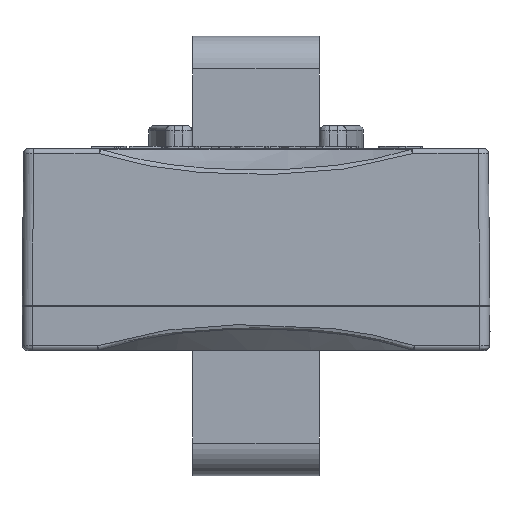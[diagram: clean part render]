
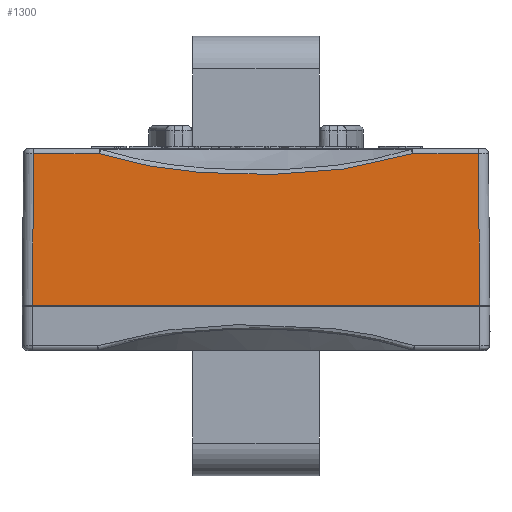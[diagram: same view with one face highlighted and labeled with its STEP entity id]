
A CAD part, front view. The second image highlights one B-rep face of the part: STEP entity #1300.
In plain terms, the highlighted planar face has unit normal (0, -1, 0.009).
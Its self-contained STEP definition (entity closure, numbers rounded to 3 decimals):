
#1086=B_SPLINE_CURVE_WITH_KNOTS('',3,(#20824,#20825,#20826,#20827,#20828,
#20829),.UNSPECIFIED.,.F.,.F.,(4,2,4),(0.,0.5,1.),.UNSPECIFIED.);
#1300=ADVANCED_FACE('',(#2494),#1990,.T.);
#1990=PLANE('',#14845);
#2494=FACE_OUTER_BOUND('',#3238,.T.);
#3238=EDGE_LOOP('',(#5012,#5013,#5014,#5015,#5016,#5017));
#5012=ORIENTED_EDGE('',*,*,#10013,.T.);
#5013=ORIENTED_EDGE('',*,*,#10180,.T.);
#5014=ORIENTED_EDGE('',*,*,#10120,.T.);
#5015=ORIENTED_EDGE('',*,*,#10119,.T.);
#5016=ORIENTED_EDGE('',*,*,#10118,.F.);
#5017=ORIENTED_EDGE('',*,*,#10152,.F.);
#8684=VERTEX_POINT('',#20519);
#8685=VERTEX_POINT('',#20521);
#8690=VERTEX_POINT('',#20554);
#8691=VERTEX_POINT('',#20559);
#8732=VERTEX_POINT('',#20821);
#8733=VERTEX_POINT('',#20855);
#10013=EDGE_CURVE('',#8685,#8684,#11986,.T.);
#10118=EDGE_CURVE('',#8732,#8690,#12045,.T.);
#10119=EDGE_CURVE('',#8691,#8690,#1086,.T.);
#10120=EDGE_CURVE('',#8733,#8691,#12046,.T.);
#10152=EDGE_CURVE('',#8685,#8732,#12057,.T.);
#10180=EDGE_CURVE('',#8684,#8733,#12077,.T.);
#11986=LINE('',#20520,#13490);
#12045=LINE('',#20822,#13549);
#12046=LINE('',#20854,#13550);
#12057=LINE('',#20983,#13561);
#12077=LINE('',#21031,#13581);
#13490=VECTOR('',#16284,1.);
#13549=VECTOR('',#16485,1.);
#13550=VECTOR('',#16488,1.);
#13561=VECTOR('',#16561,1.);
#13581=VECTOR('',#16621,1.);
#14845=AXIS2_PLACEMENT_3D('',#21055,#16650,#16651);
#16284=DIRECTION('',(1.,0.,0.));
#16485=DIRECTION('',(1.,0.,0.));
#16488=DIRECTION('',(-1.,0.,0.));
#16561=DIRECTION('',(0.009,0.009,1.));
#16621=DIRECTION('',(-0.009,0.009,1.));
#16650=DIRECTION('',(0.,-1.,0.009));
#16651=DIRECTION('',(0.,-0.009,-1.));
#20519=CARTESIAN_POINT('',(36.2,0.,3.6));
#20520=CARTESIAN_POINT('',(36.575,0.,3.6));
#20521=CARTESIAN_POINT('',(0.8,0.,3.6));
#20554=CARTESIAN_POINT('',(6.091,0.105,15.603));
#20559=CARTESIAN_POINT('',(30.909,0.105,15.603));
#20821=CARTESIAN_POINT('',(0.905,0.105,15.603));
#20822=CARTESIAN_POINT('',(18.5,0.105,15.603));
#20824=CARTESIAN_POINT('',(30.909,0.105,15.603));
#20825=CARTESIAN_POINT('',(26.91,0.094,14.328));
#20826=CARTESIAN_POINT('',(22.693,0.09,13.946));
#20827=CARTESIAN_POINT('',(14.313,0.09,13.945));
#20828=CARTESIAN_POINT('',(10.089,0.094,14.329));
#20829=CARTESIAN_POINT('',(6.091,0.105,15.603));
#20854=CARTESIAN_POINT('',(36.575,0.105,15.603));
#20855=CARTESIAN_POINT('',(36.095,0.105,15.603));
#20983=CARTESIAN_POINT('',(0.801,0.001,3.737));
#21031=CARTESIAN_POINT('',(36.2,0.,3.597));
#21055=CARTESIAN_POINT('',(36.575,0.,3.6));
